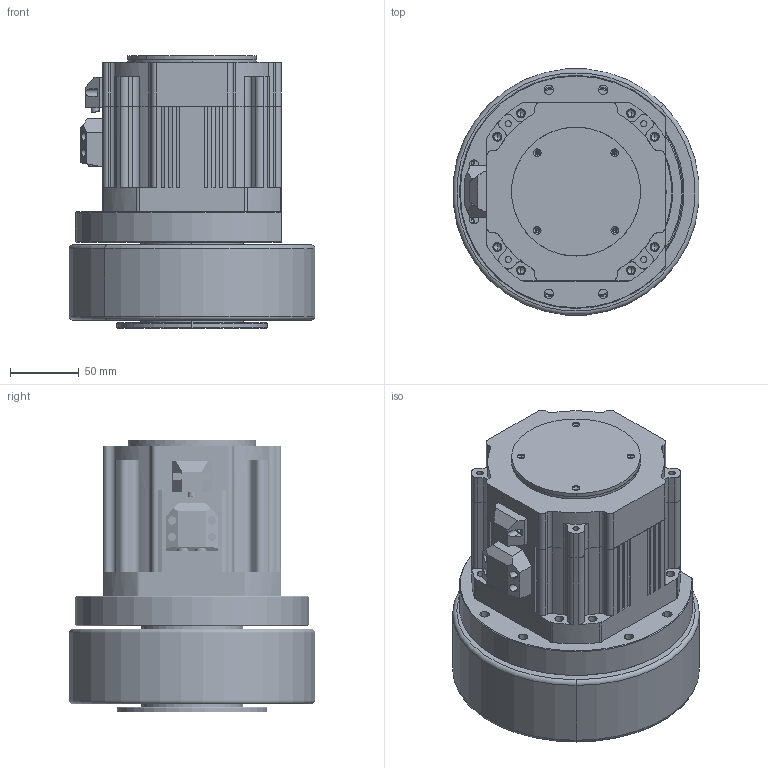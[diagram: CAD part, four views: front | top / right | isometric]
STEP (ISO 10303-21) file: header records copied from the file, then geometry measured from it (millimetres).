
FILE_DESCRIPTION((''),'2;1');
FILE_NAME('1300001_ASM','2024-12-10T12:51:19',('Administrator'),(''),'CREO PARAMETRIC BY PTC INC, 2018100','CREO PARAMETRIC BY PTC INC, 2018100','');
FILE_SCHEMA(('CONFIG_CONTROL_DESIGN'));
Length unit declared in the file: millimetre
Products named in the file (15): AEQ-115C-020-10-22-1__X_E4_X_BB; AEQ-115-H55-W180__X_E4_X_BB_1; HEXAGON_SOCKET_HEAD_CAP_SCREWS_; AEQ-115C-020-10-22-1-H55-W180___ASM; CSN_024640_SKF__B__-_SKF_6305-2; 1_0KW180MM_X2_9A7152A88F6E75356_ASM; 60__ASM_1_ASM; 1_0KW180MM_240511_ASM_2_ASM; 0022; 0024; 002_ASM; 00; 00500; 4000; 1300001_ASM
Assembly tree (21 placements, depth 5):
  1300001_ASM
    1_0KW180MM_240511_ASM_2_ASM
      1_0KW180MM_X2_9A7152A88F6E75356_ASM
        AEQ-115C-020-10-22-1-H55-W180___ASM
          AEQ-115C-020-10-22-1__X_E4_X_BB
          AEQ-115-H55-W180__X_E4_X_BB_1
          HEXAGON_SOCKET_HEAD_CAP_SCREWS_  x8
        CSN_024640_SKF__B__-_SKF_6305-2
      60__ASM_1_ASM
    0022
    002_ASM
      0024
    00
    00500
    4000
Bounding box: 179.31 x 179.31 x 199 mm (x, y, z)
Volume: 2471383.6 mm3; surface area: 433973.6 mm2
Topology: 16 solids, 27 shells, 3123 faces, 6993 edges, 3884 vertices
Faces by surface type: cone 1542, cylinder 1068, plane 395, torus 57, sphere 42, bspline 18, extrusion 1
Entity records: 39350 total; most frequent: CARTESIAN_POINT 9081, DIRECTION 6696, ORIENTED_EDGE 6054, EDGE_CURVE 3053, AXIS2_PLACEMENT_3D 2656, VERTEX_POINT 1903, CIRCLE 1422, VECTOR 1384
